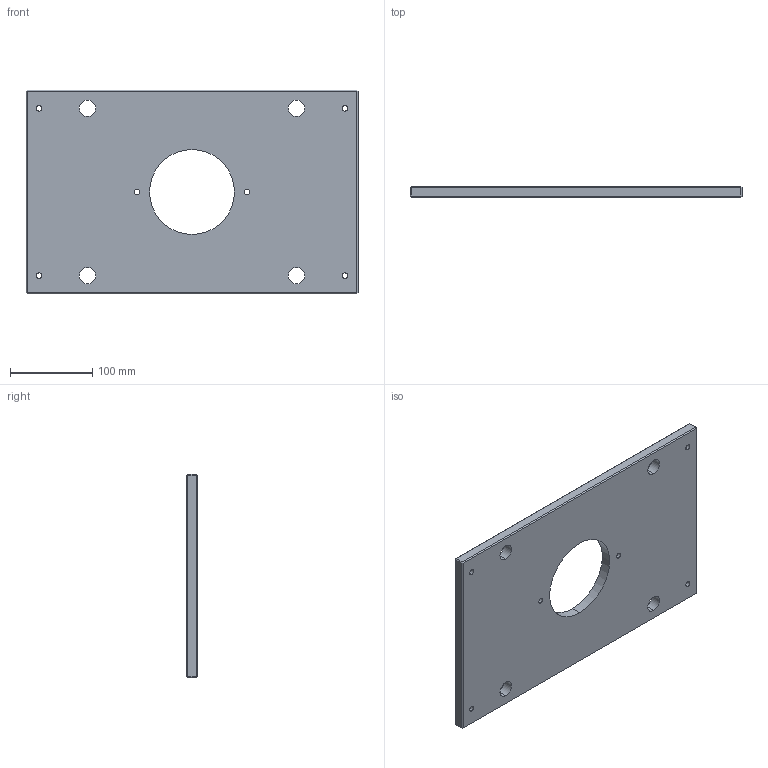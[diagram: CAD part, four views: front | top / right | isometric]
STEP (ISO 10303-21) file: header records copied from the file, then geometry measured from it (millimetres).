
FILE_DESCRIPTION (( 'STEP AP214' ), '1' );
FILE_NAME ('ME-0619-CH-1016.STEP', '2020-02-12T08:20:39', ( '' ), ( '' ), 'SwSTEP 2.0', 'SolidWorks 2018', '' );
FILE_SCHEMA (( 'AUTOMOTIVE_DESIGN' ));
Length unit declared in the file: inch
Products named in the file (1): ME-0619-CH-1016
Bounding box: 403.23 x 12.7 x 247.65 mm (x, y, z)
Volume: 1140138.5 mm3; surface area: 203399.6 mm2
Topology: 1 solids, 1 shells, 60 faces, 138 edges, 80 vertices
Faces by surface type: plane 26, cylinder 22, cone 12
Entity records: 1754 total; most frequent: DIRECTION 316, CARTESIAN_POINT 279, ORIENTED_EDGE 276, EDGE_CURVE 138, AXIS2_PLACEMENT_3D 117, VECTOR 82, LINE 82, EDGE_LOOP 82
